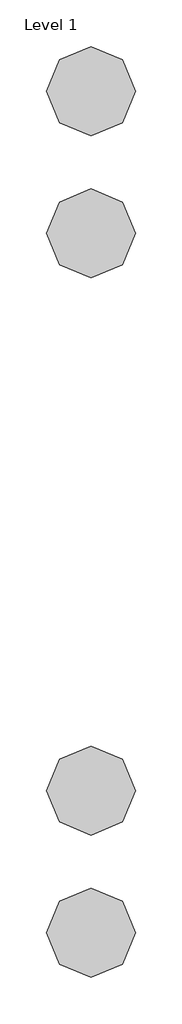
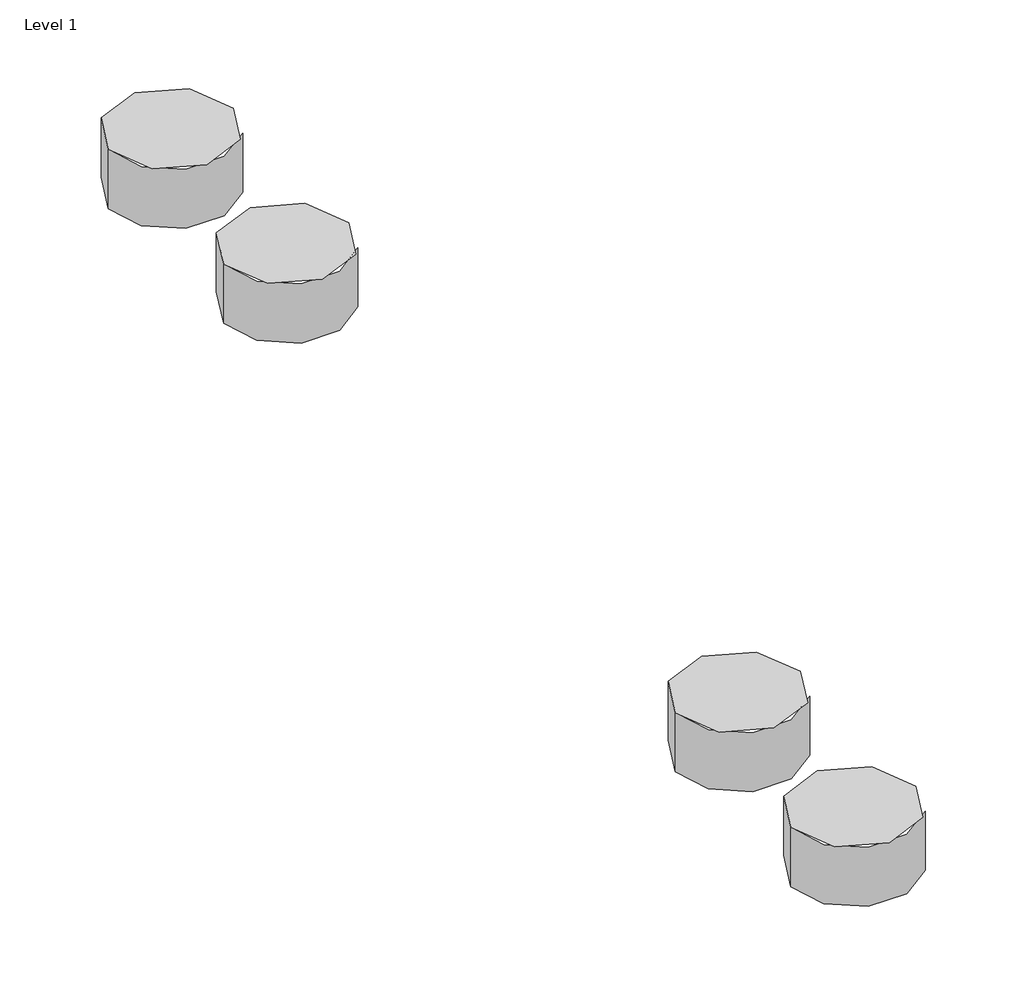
# One storey, incomplete: 4 proxies.
"""IFC4 building model written with IfcOpenShell, lengths in millimetres."""

from ifc_helpers import new_model, si_unit, origin, place, context, project, spatial, transform, mapped, element, save
from components import materialmodel_materialmodel_02e69005

model = new_model("IFC4")

# Units and contexts
model_context = context("Model", 3, world=origin())
ifc_project = project(units=[si_unit("LENGTHUNIT", "METRE", prefix="MILLI")], contexts=[model_context])

# Site, building, storey
site = spatial("IfcSite", under=ifc_project)
building = spatial("IfcBuilding", under=site)
storey = spatial("IfcBuildingStorey", under=building, Name="Level 1", Elevation=0.0)

# Proxies
placement = place(None, origin())
materialmodel_materialmodel_shape = materialmodel_materialmodel_02e69005(model_context)
element("IfcBuildingElementProxy", 1, Name="MaterialModel : MaterialModel", ObjectType="MaterialModel : MaterialModel", at=placement, inside=storey, context=model_context, shape_type="MappedRepresentation", body=[
    mapped(materialmodel_materialmodel_shape, transform((-4871.5344311, 4036.2728347, 0.0), x_axis=(1.0, 0.0, 0.0), y_axis=(0.0, 1.0, 0.0), z_axis=(0.0, 0.0, 1.0))),
])
element("IfcBuildingElementProxy", 2, Name="MaterialModel : MaterialModel", ObjectType="MaterialModel : MaterialModel", at=placement, inside=storey, context=model_context, shape_type="MappedRepresentation", body=[
    mapped(materialmodel_materialmodel_shape, transform((-4871.5344311, 3876.2728347, 0.0), x_axis=(1.0, 0.0, 0.0), y_axis=(0.0, 1.0, 0.0), z_axis=(0.0, 0.0, 1.0))),
])
element("IfcBuildingElementProxy", 3, Name="MaterialModel : MaterialModel", ObjectType="MaterialModel : MaterialModel", at=placement, inside=storey, context=model_context, shape_type="MappedRepresentation", body=[
    mapped(materialmodel_materialmodel_shape, transform((-4871.5344311, 4822.0783613, 0.0), x_axis=(1.0, 0.0, 0.0), y_axis=(0.0, 1.0, 0.0), z_axis=(0.0, 0.0, 1.0))),
])
element("IfcBuildingElementProxy", 4, Name="MaterialModel : MaterialModel", ObjectType="MaterialModel : MaterialModel", at=placement, inside=storey, context=model_context, shape_type="MappedRepresentation", body=[
    mapped(materialmodel_materialmodel_shape, transform((-4871.5344311, 4662.0783613, 0.0), x_axis=(1.0, 0.0, 0.0), y_axis=(0.0, 1.0, 0.0), z_axis=(0.0, 0.0, 1.0))),
])

save(model, "model.ifc")
